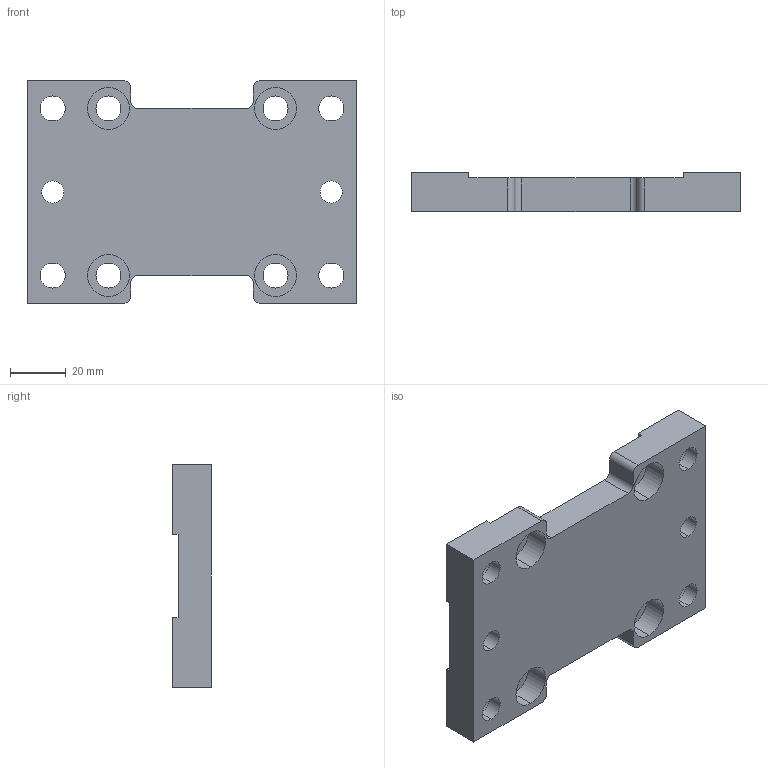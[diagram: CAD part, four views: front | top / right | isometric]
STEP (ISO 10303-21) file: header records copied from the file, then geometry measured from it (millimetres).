
FILE_DESCRIPTION (( 'STEP AP203' ), '1' );
FILE_NAME ('T63S.step', '2017-02-15T12:26:24', ( '' ), ( '' ), 'SwSTEP 2.0', 'SolidWorks 2012', '' );
FILE_SCHEMA (( 'CONFIG_CONTROL_DESIGN' ));
Length unit declared in the file: millimetre
Products named in the file (1): T63S
Bounding box: 118 x 14 x 80 mm (x, y, z)
Volume: 91210.3 mm3; surface area: 26599.1 mm2
Topology: 1 solids, 1 shells, 78 faces, 204 edges, 136 vertices
Faces by surface type: cylinder 44, plane 34
Entity records: 2553 total; most frequent: DIRECTION 450, CARTESIAN_POINT 419, ORIENTED_EDGE 408, EDGE_CURVE 204, AXIS2_PLACEMENT_3D 167, VERTEX_POINT 136, LINE 116, VECTOR 116
